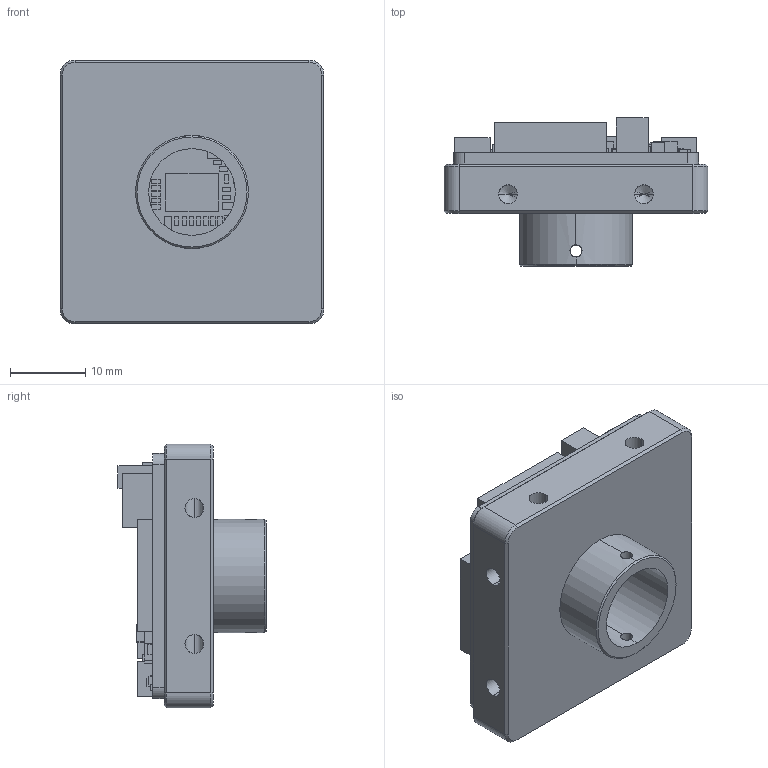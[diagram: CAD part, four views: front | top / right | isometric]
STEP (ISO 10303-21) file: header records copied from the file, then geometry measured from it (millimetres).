
FILE_DESCRIPTION (( 'STEP AP203' ), '1' );
FILE_NAME ('MS32W.STEP', '2025-01-11T05:52:27', ( '' ), ( '' ), 'SwSTEP 2.0', 'SolidWorks 2022', '' );
FILE_SCHEMA (( 'CONFIG_CONTROL_DESIGN' ));
Length unit declared in the file: millimetre
Products named in the file (3): S210011-001-U1_工程图; MS32-233-02-WM; MS32W
Assembly tree (2 placements, depth 2):
  MS32W
    S210011-001-U1_工程图
    MS32-233-02-WM
Bounding box: 35 x 19.63 x 35 mm (x, y, z)
Volume: 8413.4 mm3; surface area: 9880.3 mm2
Topology: 199 solids, 199 shells, 1351 faces, 2837 edges, 1872 vertices
Faces by surface type: plane 1223, cylinder 102, cone 26
Entity records: 35368 total; most frequent: CARTESIAN_POINT 6217, DIRECTION 5699, ORIENTED_EDGE 5642, EDGE_CURVE 2821, LINE 2591, VECTOR 2591, VERTEX_POINT 1872, AXIS2_PLACEMENT_3D 1554
